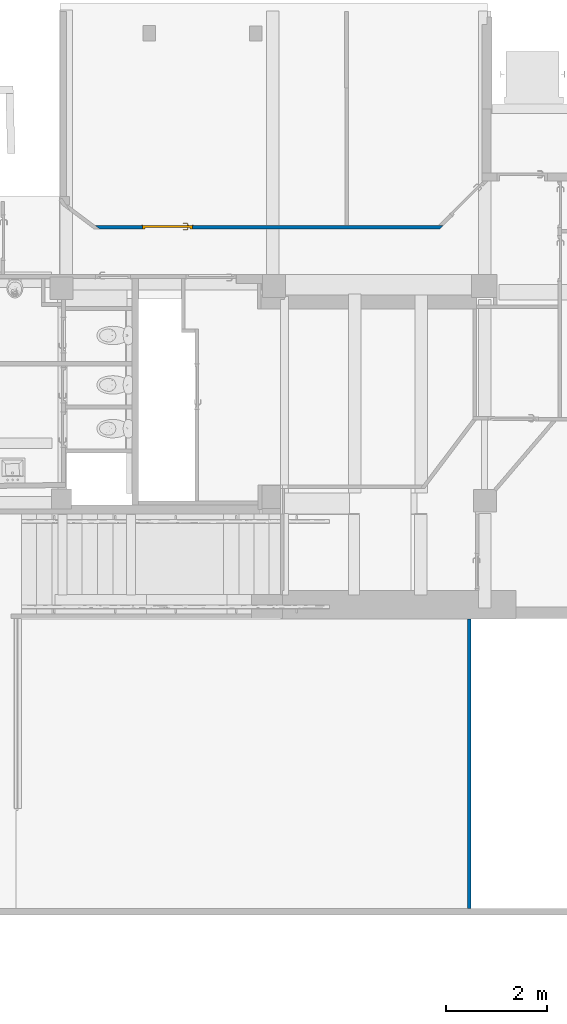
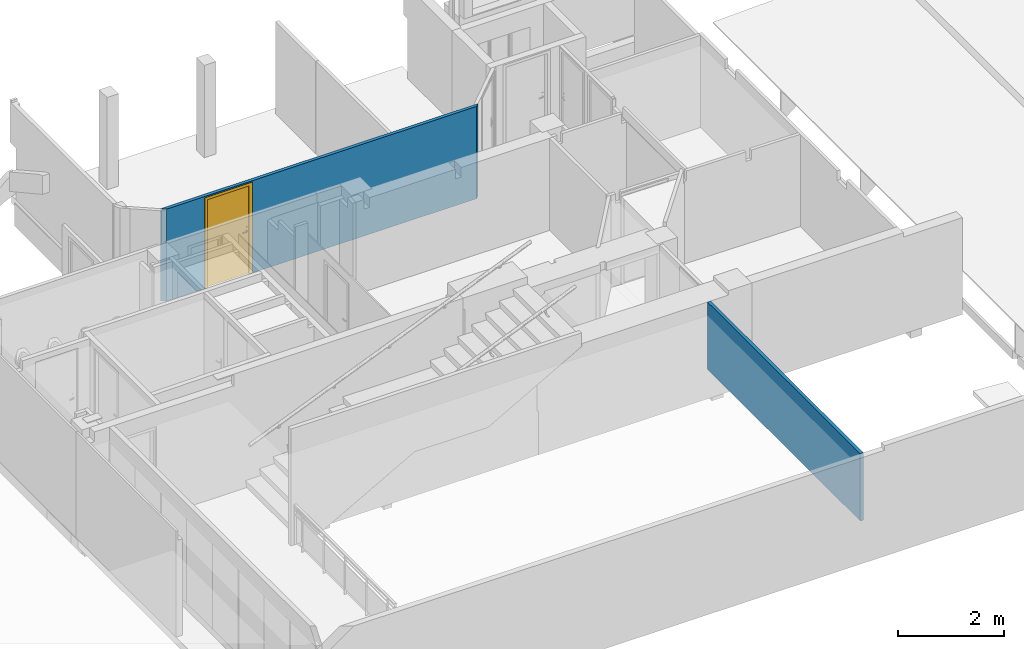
# One storey, part 5 of 32: 2 walls, 1 door, 1 opening.
"""IFC4 building model written with IfcOpenShell, lengths in metres."""

from ifc_helpers import new_model, entity, si_unit, converted_unit, derived_unit, direction, frame, origin, place, context, subcontext, project, spatial, indexed_curve, outline, extrude, polygons, source, transform, mapped, material, material_list, layer, layer_set, constituent, constituent_set, type_object, type_shapes, element, fill, save


model = new_model("IFC4")

# Units and contexts
model_context = context("Model", 3, precision=1e-05, world=origin(), true_north=direction((6.12303176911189e-17, 1.0)))
body_context = subcontext(model_context, "Body", "Model", "MODEL_VIEW")
ifc_project = project(units=[si_unit("LENGTHUNIT", "METRE"), si_unit("AREAUNIT", "SQUARE_METRE"), si_unit("VOLUMEUNIT", "CUBIC_METRE"), converted_unit("PLANEANGLEUNIT", "DEGREE", entity("IfcRatioMeasure", 0.0174532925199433), si_unit("PLANEANGLEUNIT", "RADIAN"), dimensions=[0, 0, 0, 0, 0, 0, 0]), si_unit("MASSUNIT", "GRAM", prefix="KILO"), derived_unit("MASSDENSITYUNIT", [(si_unit("MASSUNIT", "GRAM", prefix="KILO"), 1), (si_unit("LENGTHUNIT", "METRE"), -3)]), derived_unit("MOMENTOFINERTIAUNIT", [(si_unit("LENGTHUNIT", "METRE"), 4)]), si_unit("TIMEUNIT", "SECOND"), si_unit("FREQUENCYUNIT", "HERTZ"), si_unit("THERMODYNAMICTEMPERATUREUNIT", "DEGREE_CELSIUS"), derived_unit("THERMALTRANSMITTANCEUNIT", [(si_unit("MASSUNIT", "GRAM", prefix="KILO"), 1), (si_unit("THERMODYNAMICTEMPERATUREUNIT", "KELVIN"), -1), (si_unit("TIMEUNIT", "SECOND"), -3)]), derived_unit("VOLUMETRICFLOWRATEUNIT", [(si_unit("LENGTHUNIT", "METRE"), 3), (si_unit("TIMEUNIT", "SECOND"), -1)]), si_unit("ELECTRICCURRENTUNIT", "AMPERE"), si_unit("ELECTRICVOLTAGEUNIT", "VOLT"), si_unit("POWERUNIT", "WATT"), si_unit("FORCEUNIT", "NEWTON", prefix="KILO"), si_unit("ILLUMINANCEUNIT", "LUX"), si_unit("LUMINOUSFLUXUNIT", "LUMEN"), si_unit("LUMINOUSINTENSITYUNIT", "CANDELA"), derived_unit("USERDEFINED", [(si_unit("MASSUNIT", "GRAM", prefix="KILO"), -1), (si_unit("LENGTHUNIT", "METRE"), -2), (si_unit("TIMEUNIT", "SECOND"), 3), (si_unit("LUMINOUSFLUXUNIT", "LUMEN"), 1)]), derived_unit("LINEARVELOCITYUNIT", [(si_unit("LENGTHUNIT", "METRE"), 1), (si_unit("TIMEUNIT", "SECOND"), -1)]), si_unit("PRESSUREUNIT", "PASCAL"), derived_unit("USERDEFINED", [(si_unit("LENGTHUNIT", "METRE"), -2), (si_unit("MASSUNIT", "GRAM", prefix="KILO"), 1), (si_unit("TIMEUNIT", "SECOND"), -2)]), derived_unit("LINEARFORCEUNIT", [(si_unit("MASSUNIT", "GRAM", prefix="KILO"), 1), (si_unit("LENGTHUNIT", "METRE"), 1), (si_unit("TIMEUNIT", "SECOND"), -2), (si_unit("LENGTHUNIT", "METRE"), -1)]), derived_unit("PLANARFORCEUNIT", [(si_unit("MASSUNIT", "GRAM", prefix="KILO"), 1), (si_unit("LENGTHUNIT", "METRE"), 1), (si_unit("TIMEUNIT", "SECOND"), -2), (si_unit("LENGTHUNIT", "METRE"), -2)])], contexts=[model_context])

# Site, building, storey
site_placement = place(None, origin())
site = spatial("IfcSite", under=ifc_project, at=site_placement, Name="Default", CompositionType="ELEMENT")
building_placement = place(site_placement, origin())
building = spatial("IfcBuilding", under=site, at=building_placement, Name="HOTEL CONSULAIRE BOULOGNE SUR MER", CompositionType="ELEMENT")
storey_placement = place(building_placement, frame((0.0, 0.0, -2.70343668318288)))
storey = spatial("IfcBuildingStorey", under=building, at=storey_placement, Name="SS1", CompositionType="ELEMENT", Elevation=-2.70343668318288)

# Wall, opening, door
ifc_material_1 = material(Name="Mur par défaut", Category="Divers")
ifc_layer_1 = layer(ifc_material_1, 0.07, Name="Mur par défaut", Category="Divers")
ifc_layer_set_1 = layer_set([ifc_layer_1], Name="Mur de base:Générique - Int. 70 mm")
wall_type_1 = type_object("IfcWallType", Name="Mur de base:Générique - Int. 70 mm", PredefinedType="NOTDEFINED", material=ifc_layer_set_1)
wall_1_placement = place(storey_placement, frame((-0.561151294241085, -14.4068227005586, 0.313990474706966)))
wall_1 = element("IfcWall", 1, at=wall_1_placement, inside=storey, type_object=wall_type_1, material=ifc_layer_set_1, Name="Mur de base:Générique - Int. 70 mm", ObjectType="Mur de base:Générique - Int. 70 mm", PredefinedType="NOTDEFINED", context=body_context, shape_type="Tessellation", body=[
    polygons([(0.934352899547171, -0.0349999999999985, 0.0), (0.0933151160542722, -0.0349999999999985, 0.0), (6.65072690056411e-16, 0.0350000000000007, 0.0), (0.93435289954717, 0.0350000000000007, 0.0), (6.82746748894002, -0.0349999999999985, 2.11944620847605), (0.0933151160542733, -0.0349999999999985, 2.11944620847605), (0.934352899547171, -0.0349999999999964, 2.075), (1.93435289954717, -0.0349999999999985, 2.075), (1.93435289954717, -0.0349999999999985, 0.0), (6.82746748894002, -0.0349999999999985, 0.0), (5.59599298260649e-17, 0.0350000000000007, 2.11944620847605), (4.94932806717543, 0.0350000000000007, 2.11944620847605), (5.01932806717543, 0.0350000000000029, 2.11944620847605), (6.79872285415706, 0.0350000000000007, 2.11944620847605), (6.89832846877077, 0.0350000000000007, 2.11944620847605), (6.89832846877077, 0.0350000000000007, 0.0), (6.79872285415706, 0.0350000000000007, 0.0), (1.93435289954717, 0.0350000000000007, 0.0), (1.93435289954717, 0.0350000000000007, 2.075), (0.934352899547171, 0.0350000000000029, 2.075)], [[[4, 1, 2, 3]], [[8, 7, 20, 19]], [[17, 16, 10, 9, 18]], [[2, 1, 7, 8, 9, 10, 5, 6]], [[14, 15, 16, 17, 18, 19, 20, 4, 3, 11, 12, 13]], [[5, 15, 14, 13, 12, 11, 6]], [[11, 3, 2, 6]], [[5, 10, 16, 15]], [[1, 4, 20, 7]], [[8, 19, 18, 9]]], closed=True),
])
opening_placement = place(wall_1_placement, frame((0.93435289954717, -0.0349999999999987, 0.0)))
opening = element("IfcOpeningElement", 2, at=opening_placement, cuts=wall_1, Name="Int. Simple:PP0.93x2.04:1", ObjectType="Opening", PredefinedType="OPENING", context=body_context, shape_type="SweptSolid", body=[
    extrude(outline(indexed_curve([(0.0, 4.06075173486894e-16), (2.075, 4.06075173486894e-16), (2.075, 1.0), (0.0, 1.0), (0.0, 4.06075173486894e-16)], self_intersect=False)), frame((0.0, 0.0, 0.0), z_axis=(0.0, 1.0, 0.0), x_axis=(0.0, 0.0, 1.0)), (0.0, 0.0, 1.0), 0.07),
])
ifc_material_2 = material(Name="Finition Peinture - Blanc satiné", Category="Peinture")
ifc_constituent_1 = constituent(ifc_material_2, Name="Finition Peinture - Blanc satiné", Category="Matériaux")
ifc_material_3 = material(Name="Bois - Panneau de porte", Category="Bois")
ifc_constituent_2 = constituent(ifc_material_3, Name="Bois - Panneau de porte", Category="Matériaux")
ifc_material_4 = material(Name="Bois - Cadre de porte", Category="Bois")
ifc_constituent_3 = constituent(ifc_material_4, Name="Bois - Cadre de porte", Category="Matériaux")
ifc_constituent_set = constituent_set(constituents=[ifc_constituent_1, ifc_constituent_2, ifc_constituent_3], Name="MaterialConstituentSet")
ifc_material_list = material_list([ifc_material_2, ifc_material_4, ifc_material_4, ifc_material_3])
door_type = type_object("IfcDoorType", Name="Int. Simple:PP0.93x2.04", OperationType="NOTDEFINED", PredefinedType="DOOR", material=ifc_material_list)
shared_shape = source(origin(), body_context, "Body", "Tessellation", [
    polygons([(0.075000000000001, -0.00500000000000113, 0.870000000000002), (0.0846472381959, -0.00500000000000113, 0.866003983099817), (0.0950000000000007, -0.00500000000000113, 0.86464101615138), (0.105352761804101, -0.00500000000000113, 0.866003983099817), (0.115, -0.00500000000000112, 0.870000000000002), (0.114999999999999, -0.00500000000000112, 1.08), (0.1053527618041, -0.00500000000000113, 1.08399601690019), (0.0949999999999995, -0.00500000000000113, 1.08535898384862), (0.0846472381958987, -0.00500000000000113, 1.08399601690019), (0.0749999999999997, -0.00500000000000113, 1.08), (0.0749999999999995, -1.1420864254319e-15, 0.870000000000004), (0.0749999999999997, -1.1420864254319e-15, 1.08), (0.0846472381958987, -1.13785647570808e-15, 1.08399601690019), (0.0949999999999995, -1.13362652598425e-15, 1.08535898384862), (0.1053527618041, -1.12939657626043e-15, 1.08399601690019), (0.114999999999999, -1.12516662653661e-15, 1.08), (0.115, -1.12516662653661e-15, 0.870000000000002), (0.105352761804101, -1.12939657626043e-15, 0.866003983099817), (0.0950000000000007, -1.13362652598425e-15, 0.86464101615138), (0.0846472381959, -1.13785647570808e-15, 0.866003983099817)], [[[4, 5, 6, 7, 8, 9, 10, 1, 2, 3]], [[15, 16, 17, 18, 19, 20, 11, 12, 13, 14]], [[11, 20, 2, 1]], [[2, 20, 19, 3]], [[19, 18, 4, 3]], [[18, 17, 5, 4]], [[6, 5, 17, 16]], [[16, 15, 7, 6]], [[7, 15, 14, 8]], [[14, 13, 9, 8]], [[13, 12, 10, 9]], [[1, 10, 12, 11]]], closed=True),
    polygons([(0.114999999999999, 0.0399999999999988, 1.08), (0.1053527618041, 0.0399999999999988, 1.08399601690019), (0.0949999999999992, 0.0399999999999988, 1.08535898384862), (0.0846472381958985, 0.0399999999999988, 1.08399601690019), (0.0749999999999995, 0.0399999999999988, 1.08), (0.075000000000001, 0.0399999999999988, 0.870000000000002), (0.0846472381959, 0.0399999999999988, 0.866003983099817), (0.0950000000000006, 0.0399999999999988, 0.86464101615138), (0.105352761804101, 0.0399999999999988, 0.866003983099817), (0.115, 0.0399999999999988, 0.870000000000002), (0.114999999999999, 0.0449999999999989, 1.08), (0.115, 0.0449999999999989, 0.870000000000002), (0.105352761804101, 0.0449999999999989, 0.866003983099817), (0.0950000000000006, 0.0449999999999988, 0.86464101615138), (0.0846472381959, 0.0449999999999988, 0.866003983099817), (0.0749999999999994, 0.0449999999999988, 0.870000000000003), (0.0749999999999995, 0.0449999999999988, 1.08), (0.0846472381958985, 0.0449999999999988, 1.08399601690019), (0.0949999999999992, 0.0449999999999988, 1.08535898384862), (0.1053527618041, 0.0449999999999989, 1.08399601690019)], [[[9, 10, 1, 2, 3, 4, 5, 6, 7, 8]], [[20, 11, 12, 13, 14, 15, 16, 17, 18, 19]], [[11, 20, 2, 1]], [[2, 20, 19, 3]], [[19, 18, 4, 3]], [[18, 17, 5, 4]], [[6, 5, 17, 16]], [[16, 15, 7, 6]], [[7, 15, 14, 8]], [[14, 13, 9, 8]], [[13, 12, 10, 9]], [[1, 10, 12, 11]]], closed=True),
    polygons([(0.0889999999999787, -0.00500000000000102, 1.007), (0.0929747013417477, -0.005000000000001, 1.00778044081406), (0.097025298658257, -0.00500000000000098, 1.00778044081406), (0.101000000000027, -0.00500000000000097, 1.00699999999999), (0.101000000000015, -0.00500000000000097, 0.993000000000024), (0.0970252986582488, -0.00500000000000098, 0.992219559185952), (0.0929747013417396, -0.005000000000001, 0.99221955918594), (0.0889999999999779, -0.00500000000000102, 0.992999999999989), (0.0889999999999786, -0.0326509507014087, 1.007), (0.0929747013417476, -0.0310045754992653, 1.00778044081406), (0.0970252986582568, -0.029326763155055, 1.00778044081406), (0.101000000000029, -0.0276803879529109, 1.007), (0.101000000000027, -0.0276803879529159, 0.993000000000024), (0.0970252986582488, -0.0293267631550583, 0.992219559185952), (0.0929747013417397, -0.0310045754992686, 0.99221955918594), (0.0889999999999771, -0.0326509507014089, 0.992999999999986), (0.107377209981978, -0.0510281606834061, 1.007), (0.109023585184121, -0.0470534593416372, 1.00778044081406), (0.110701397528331, -0.043002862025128, 1.00778044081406), (0.112347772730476, -0.0390281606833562, 1.007), (0.112347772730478, -0.0390281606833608, 0.993000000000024), (0.110701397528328, -0.0430028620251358, 0.992219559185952), (0.109023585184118, -0.047053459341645, 0.99221955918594), (0.107377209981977, -0.0510281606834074, 0.992999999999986), (0.195018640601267, -0.0510281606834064, 1.00699999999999), (0.195018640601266, -0.0510281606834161, 0.992999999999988), (0.195018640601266, -0.0470534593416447, 0.99221955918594), (0.195018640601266, -0.0430028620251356, 0.992219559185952), (0.195018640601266, -0.039028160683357, 0.993000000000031), (0.195018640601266, -0.0390281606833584, 1.007), (0.195018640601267, -0.0430028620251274, 1.00778044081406), (0.195018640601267, -0.0470534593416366, 1.00778044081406), (0.147307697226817, -0.0510281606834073, 1.007), (0.152860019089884, -0.0450281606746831, 1.0078786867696), (0.15368320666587, -0.0390281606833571, 1.007), (0.147307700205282, -0.0510281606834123, 0.992999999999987), (0.152860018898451, -0.0450281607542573, 0.992121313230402), (0.153683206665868, -0.039028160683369, 0.993000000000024)], [[[2, 3, 4, 5, 6, 7, 8, 1]], [[21, 20, 35, 30, 29, 38]], [[9, 10, 2, 1]], [[10, 18, 19, 11, 3, 2]], [[11, 12, 4, 3]], [[5, 4, 12, 13]], [[26, 27, 28, 29, 30, 31, 32, 25]], [[13, 14, 6, 5]], [[14, 22, 23, 15, 7, 6]], [[15, 16, 8, 7]], [[1, 8, 16, 9]], [[17, 18, 10, 9]], [[19, 20, 12, 11]], [[13, 12, 20, 21]], [[21, 22, 14, 13]], [[23, 24, 16, 15]], [[9, 16, 24, 17]], [[33, 32, 34]], [[25, 32, 33]], [[18, 17, 33]], [[34, 35, 19]], [[20, 19, 35]], [[35, 31, 30]], [[32, 31, 34]], [[31, 35, 34]], [[18, 33, 34]], [[18, 34, 19]], [[38, 28, 37]], [[36, 37, 27]], [[21, 38, 22]], [[38, 29, 28]], [[26, 36, 27]], [[24, 23, 36]], [[36, 23, 37]], [[23, 22, 37]], [[22, 38, 37]], [[27, 37, 28]], [[17, 24, 36, 26, 25, 33]]], closed=True),
    polygons([(0.10100000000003, 0.044999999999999, 0.993000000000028), (0.101000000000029, 0.044999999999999, 1.007), (0.0970252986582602, 0.044999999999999, 1.00778044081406), (0.092974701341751, 0.044999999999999, 1.00778044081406), (0.0889999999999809, 0.044999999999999, 1.007), (0.0889999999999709, 0.044999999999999, 0.992999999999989), (0.0929747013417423, 0.044999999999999, 0.99221955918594), (0.0970252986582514, 0.044999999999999, 0.992219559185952), (0.10100000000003, 0.067485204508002, 0.993000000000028), (0.10100000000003, 0.0674852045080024, 1.007), (0.0970252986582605, 0.0691315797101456, 1.00778044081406), (0.0929747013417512, 0.0708093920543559, 1.00778044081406), (0.088999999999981, 0.0724557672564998, 1.007), (0.0889999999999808, 0.072455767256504, 0.992999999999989), (0.092974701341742, 0.0708093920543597, 0.99221955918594), (0.0970252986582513, 0.0691315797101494, 0.992219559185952), (0.112485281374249, 0.0789704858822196, 0.993000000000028), (0.112485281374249, 0.0789704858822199, 1.007), (0.110838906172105, 0.0829451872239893, 1.00778044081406), (0.109161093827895, 0.0869957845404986, 1.00778044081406), (0.107514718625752, 0.0909704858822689, 1.007), (0.107514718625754, 0.090970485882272, 0.992999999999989), (0.109161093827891, 0.0869957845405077, 0.99221955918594), (0.110838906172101, 0.0829451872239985, 0.992219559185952), (0.195045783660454, 0.078970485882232, 0.993000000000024), (0.195045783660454, 0.0829451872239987, 0.992219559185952), (0.195045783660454, 0.0869957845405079, 0.99221955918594), (0.195045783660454, 0.0909704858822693, 0.992999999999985), (0.195045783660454, 0.0909704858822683, 1.007), (0.195045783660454, 0.0869957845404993, 1.00778044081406), (0.195045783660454, 0.08294518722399, 1.00778044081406), (0.195045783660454, 0.0789704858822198, 1.007), (0.147445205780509, 0.0909704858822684, 1.007), (0.152942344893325, 0.0849704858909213, 1.0078786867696), (0.153765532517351, 0.0789704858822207, 1.007), (0.147445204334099, 0.0909704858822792, 0.992999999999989), (0.152942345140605, 0.0849704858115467, 0.992121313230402), (0.153765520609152, 0.0789704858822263, 0.993000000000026)], [[[4, 5, 6, 7, 8, 1, 2, 3]], [[18, 17, 38, 25, 32, 35]], [[2, 1, 9, 10]], [[25, 26, 27, 28, 29, 30, 31, 32]], [[10, 11, 3, 2]], [[11, 19, 20, 12, 4, 3]], [[12, 13, 5, 4]], [[6, 5, 13, 14]], [[14, 15, 7, 6]], [[15, 23, 24, 16, 8, 7]], [[16, 9, 1, 8]], [[10, 9, 17, 18]], [[18, 19, 11, 10]], [[20, 21, 13, 12]], [[14, 13, 21, 22]], [[22, 23, 15, 14]], [[24, 17, 9, 16]], [[35, 31, 34]], [[33, 34, 30]], [[18, 35, 19]], [[35, 32, 31]], [[29, 33, 30]], [[21, 20, 33]], [[33, 20, 34]], [[20, 19, 34]], [[19, 35, 34]], [[30, 34, 31]], [[21, 33, 29, 28, 36, 22]], [[36, 27, 37]], [[28, 27, 36]], [[23, 22, 36]], [[37, 38, 24]], [[17, 24, 38]], [[38, 26, 25]], [[27, 26, 37]], [[26, 38, 37]], [[23, 36, 37]], [[23, 37, 24]]], closed=True),
    polygons([(0.0349999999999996, 0.04, 2.04), (0.965, 0.04, 2.04), (0.965, 0.04, 0.0), (0.0349999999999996, 0.04, 0.0), (0.0349999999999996, -4.22994972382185e-17, 2.04), (0.0349999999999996, -4.22994972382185e-17, 0.0), (0.965, -4.22994972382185e-17, 0.0), (0.965, -4.22994972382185e-17, 2.04)], [[[4, 1, 2, 3]], [[7, 8, 5, 6]], [[2, 1, 5, 8]], [[3, 2, 8, 7]], [[4, 3, 7, 6]], [[1, 4, 6, 5]]], closed=True),
    polygons([(-1.52954982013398e-14, 4.22994972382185e-18, 0.0), (-1.52954982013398e-14, 0.0699999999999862, 0.0), (0.0500000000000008, 0.0699999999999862, 0.0), (0.0500000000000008, 0.04, 0.0), (0.0349999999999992, 0.04, 0.0), (0.0349999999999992, 4.22994972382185e-18, 0.0), (-1.51601398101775e-14, 4.22994972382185e-18, 2.07500000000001), (-1.51601398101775e-14, 0.0699999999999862, 2.07500000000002), (1.00000000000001, 0.0699999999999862, 2.07500000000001), (1.00000000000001, 0.0699999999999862, 5.63787022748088e-24), (0.949999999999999, 0.0699999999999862, 3.74237989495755e-24), (0.949999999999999, 0.0699999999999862, 2.025), (0.0500000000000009, 0.0699999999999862, 2.025), (0.0500000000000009, 0.04, 2.025), (0.949999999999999, 0.04, 2.025), (0.949999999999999, 0.04, -5.82688076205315e-24), (0.965, 0.04, 3.55589136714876e-24), (0.965000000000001, 0.04, 2.04), (0.0349999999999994, 0.04, 2.04), (0.0349999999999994, 4.22994972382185e-18, 2.04), (0.965, 4.22994972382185e-18, 2.04), (0.965, 4.22994972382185e-18, -1.66105658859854e-24), (1.00000000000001, 4.22994972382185e-18, -7.90980308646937e-25), (1.00000000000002, 4.22994972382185e-18, 2.07500000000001)], [[[5, 6, 1, 2, 3, 4]], [[16, 11, 10, 23, 22, 17]], [[14, 13, 12, 15]], [[20, 19, 18, 21]], [[2, 1, 7, 8]], [[15, 12, 11, 16]], [[21, 18, 17, 22]], [[3, 2, 8, 9, 10, 11, 12, 13]], [[4, 3, 13, 14]], [[6, 5, 19, 20]], [[9, 24, 23, 10]], [[16, 17, 18, 19, 5, 4, 14, 15]], [[22, 23, 24, 7, 1, 6, 20, 21]], [[8, 7, 24, 9]]], closed=True),
    polygons([(0.0149999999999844, 0.0699999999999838, 0.0), (-0.0150000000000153, 0.0699999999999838, 0.0), (-0.0150000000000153, 0.0749999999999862, 0.0), (0.0149999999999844, 0.0749999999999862, 0.0), (0.0149999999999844, 0.0699999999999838, 2.06000000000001), (0.98499999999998, 0.0699999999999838, 2.06000000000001), (0.98499999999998, 0.0699999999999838, -1.80158915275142e-24), (1.01499999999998, 0.0699999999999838, -9.00794253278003e-25), (1.01499999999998, 0.0699999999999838, 2.09000000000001), (-0.0150000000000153, 0.0699999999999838, 2.09000000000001), (-0.0150000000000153, 0.0749999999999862, 2.09000000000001), (1.01499999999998, 0.0749999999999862, 2.09000000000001), (1.01499999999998, 0.0749999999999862, -4.03399441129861e-24), (0.98499999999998, 0.0749999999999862, -4.03399441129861e-24), (0.98499999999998, 0.0749999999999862, 2.06000000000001), (0.0149999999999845, 0.0749999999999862, 2.06000000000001)], [[[2, 3, 4, 1]], [[14, 13, 8, 7]], [[5, 16, 15, 6]], [[7, 8, 9, 10, 2, 1, 5, 6]], [[3, 2, 10, 11]], [[6, 15, 14, 7]], [[4, 3, 11, 12, 13, 14, 15, 16]], [[1, 4, 16, 5]], [[12, 9, 8, 13]], [[11, 10, 9, 12]]], closed=True),
    polygons([(0.0149999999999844, -0.00499999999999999, 0.0), (-0.0150000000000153, -0.00499999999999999, 0.0), (-0.0150000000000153, -8.2484019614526e-16, 0.0), (0.0149999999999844, -8.2484019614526e-16, 0.0), (0.98499999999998, -0.00499999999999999, 5.41433564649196e-16), (0.98499999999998, -8.2484019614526e-16, 5.41433564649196e-16), (1.01499999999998, -8.2484019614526e-16, 5.41433564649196e-16), (1.01499999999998, -0.00499999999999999, 5.41433564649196e-16), (0.0149999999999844, -0.00499999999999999, 2.06000000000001), (0.98499999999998, -0.00499999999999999, 2.06000000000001), (1.01499999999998, -0.00499999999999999, 2.09000000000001), (-0.0150000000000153, -0.00499999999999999, 2.09000000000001), (-0.0150000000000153, -8.2484019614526e-16, 2.09000000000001), (1.01499999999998, -8.2484019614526e-16, 2.09000000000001), (0.98499999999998, -8.2484019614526e-16, 2.06000000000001), (0.0149999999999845, -8.2484019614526e-16, 2.06000000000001)], [[[2, 3, 4, 1]], [[6, 7, 8, 5]], [[9, 16, 15, 10]], [[5, 8, 11, 12, 2, 1, 9, 10]], [[3, 2, 12, 13]], [[10, 15, 6, 5]], [[4, 3, 13, 14, 7, 6, 15, 16]], [[1, 4, 16, 9]], [[14, 11, 8, 7]], [[13, 12, 11, 14]]], closed=True),
])
type_shapes(door_type, [shared_shape])
door_placement = place(opening_placement, frame((1.0, 0.0699999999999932, 0.0), z_axis=(0.0, 0.0, 1.0), x_axis=(-1.0, 0.0, 0.0)))
door = element("IfcDoor", 3, at=door_placement, inside=storey, type_object=door_type, material=ifc_constituent_set, Name="Int. Simple:PP0.93x2.04", ObjectType="Int. Simple:PP0.93x2.04", OperationType="NOTDEFINED", OverallHeight=2.075, OverallWidth=1.0, PredefinedType="DOOR", context=body_context, shape_type="MappedRepresentation", body=[
    mapped(shared_shape, transform((0.0, 0.0, 0.0), scale=1.0)),
])
fill(opening, door)

# Wall
ifc_layer_2 = layer(ifc_material_1, 0.07, Name="Mur par défaut", Category="Divers")
ifc_layer_set_2 = layer_set([ifc_layer_2], Name="Mur de base:Int. Plâtre 70 mm")
wall_type_2 = type_object("IfcWallType", Name="Mur de base:Int. Plâtre 70 mm", PredefinedType="NOTDEFINED", material=ifc_layer_set_2)
wall_2_placement = place(storey_placement, frame((6.85472744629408, -27.916273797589, 0.885910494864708), z_axis=(0.0, 0.0, 1.0), x_axis=(0.0, 1.0, 0.0)))
element("IfcWall", 4, at=wall_2_placement, inside=storey, type_object=wall_type_2, material=ifc_layer_set_2, Name="Mur de base:Int. Plâtre 70 mm", ObjectType="Mur de base:Int. Plâtre 70 mm", PredefinedType="NOTDEFINED", context=body_context, shape_type="SweptSolid", body=[
    extrude(outline(indexed_curve([(5.74589604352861, 0.0349999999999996), (-5.92690352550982e-17, 0.0349999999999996), (5.92690352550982e-17, -0.0349999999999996), (5.74589604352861, -0.0349999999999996), (5.74589604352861, 0.0349999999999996)], self_intersect=False)), origin(), (0.0, 0.0, 1.0), 1.54752618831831),
])

save(model, "model.ifc")
